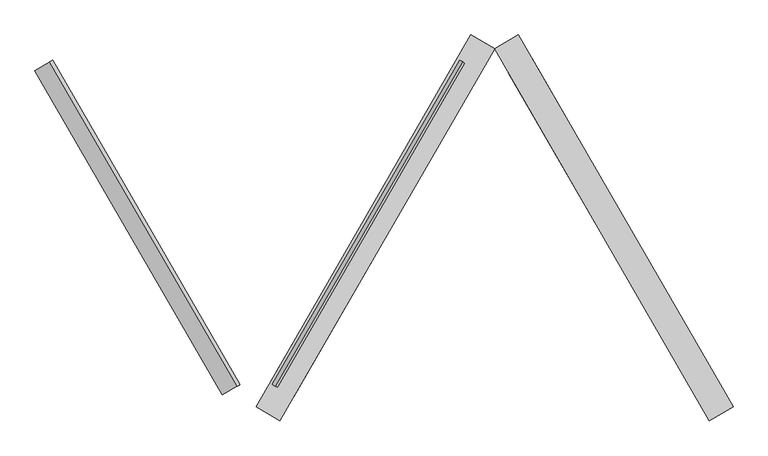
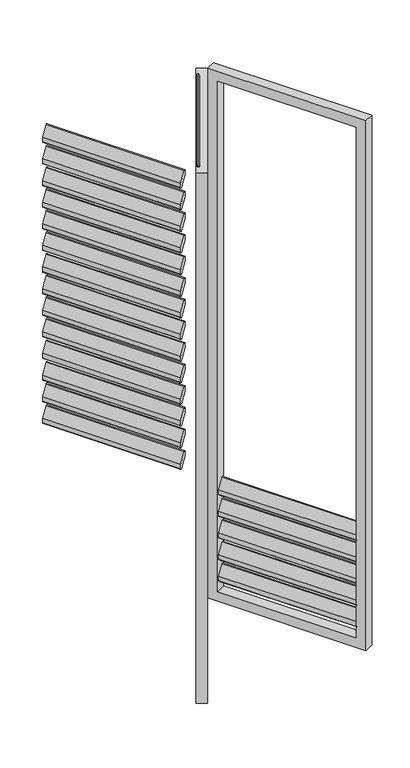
"""IFC4 building model written with IfcOpenShell, lengths in millimetres: proxy geometry, Renson_Amani_Loggia_Paro_Aluminium_Folding : Renson_Amani_Loggia_Paro_Aluminium_Folding."""

from ifc_helpers import new_model, si_unit, point, frame, frame_2d, origin, place, context, project, spatial, polyline, circle_curve, trimmed, segment, composite_curve, outline, extrude, source, transform, mapped, element, save


def generic_models_e3120b8a(model_context):
    return source(origin(), model_context, "Body", "SweptSolid", [
        extrude(outline(composite_curve([segment(polyline([(-44.0658831, 0.0), (0.8886405, 0.0), (17.0325667, -10.4839883)]), True, "CONTINUOUS"), segment(trimmed(circle_curve(frame_2d((15.3986496, -13.0)), 3.0), [point((17.0325667, -10.4839883))], [point((15.3986496, -16.0))], False, "CARTESIAN"), True, "CONTINUOUS"), segment(polyline([(15.3986496, -16.0), (-28.6672334, -16.0)]), True, "CONTINUOUS"), segment(trimmed(circle_curve(frame_2d((-28.6672334, -13.0)), 3.0), [point((-28.6672334, -16.0))], [point((-30.3011505, -15.5160117))], False, "CARTESIAN"), True, "CONTINUOUS"), segment(polyline([(-30.3011505, -15.5160117), (-45.6998002, -5.5160117)]), True, "CONTINUOUS"), segment(trimmed(circle_curve(frame_2d((-44.0658831, -3.0)), 3.0), [point((-45.6998002, -5.5160117))], [point((-44.0658831, 0.0))], False, "CARTESIAN"), True, "CONTINUOUS")], self_intersect=False)), frame((1686.1094572, 37.7168064, 507.3359298), z_axis=(-0.5000000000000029, 0.866025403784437, 0.0), x_axis=(-0.47167124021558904, -0.27231951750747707, -0.8386705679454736)), (0.0, 0.0, 1.0), 545.0),
        extrude(outline(composite_curve([segment(polyline([(-44.0658831, 0.0), (0.8886405, 0.0), (17.0325667, -10.4839883)]), True, "CONTINUOUS"), segment(trimmed(circle_curve(frame_2d((15.3986496, -13.0)), 3.0), [point((17.0325667, -10.4839883))], [point((15.3986496, -16.0))], False, "CARTESIAN"), True, "CONTINUOUS"), segment(polyline([(15.3986496, -16.0), (-28.6672334, -16.0)]), True, "CONTINUOUS"), segment(trimmed(circle_curve(frame_2d((-28.6672334, -13.0)), 3.0), [point((-28.6672334, -16.0))], [point((-30.3011505, -15.5160117))], False, "CARTESIAN"), True, "CONTINUOUS"), segment(polyline([(-30.3011505, -15.5160117), (-45.6998002, -5.5160117)]), True, "CONTINUOUS"), segment(trimmed(circle_curve(frame_2d((-44.0658831, -3.0)), 3.0), [point((-45.6998002, -5.5160117))], [point((-44.0658831, 0.0))], False, "CARTESIAN"), True, "CONTINUOUS")], self_intersect=False)), frame((1686.1094572, 37.7168064, 417.3359298), z_axis=(-0.5000000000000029, 0.866025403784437, 0.0), x_axis=(-0.47167124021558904, -0.27231951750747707, -0.8386705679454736)), (0.0, 0.0, 1.0), 545.0),
        extrude(outline(composite_curve([segment(polyline([(-44.0658831, 0.0), (0.8886405, 0.0), (17.0325667, -10.4839883)]), True, "CONTINUOUS"), segment(trimmed(circle_curve(frame_2d((15.3986496, -13.0)), 3.0), [point((17.0325667, -10.4839883))], [point((15.3986496, -16.0))], False, "CARTESIAN"), True, "CONTINUOUS"), segment(polyline([(15.3986496, -16.0), (-28.6672334, -16.0)]), True, "CONTINUOUS"), segment(trimmed(circle_curve(frame_2d((-28.6672334, -13.0)), 3.0), [point((-28.6672334, -16.0))], [point((-30.3011505, -15.5160117))], False, "CARTESIAN"), True, "CONTINUOUS"), segment(polyline([(-30.3011505, -15.5160117), (-45.6998002, -5.5160117)]), True, "CONTINUOUS"), segment(trimmed(circle_curve(frame_2d((-44.0658831, -3.0)), 3.0), [point((-45.6998002, -5.5160117))], [point((-44.0658831, 0.0))], False, "CARTESIAN"), True, "CONTINUOUS")], self_intersect=False)), frame((1686.1094572, 37.7168064, 327.3359298), z_axis=(-0.5000000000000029, 0.866025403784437, 0.0), x_axis=(-0.47167124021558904, -0.27231951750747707, -0.8386705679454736)), (0.0, 0.0, 1.0), 545.0),
        extrude(outline(composite_curve([segment(polyline([(-44.0658831, 0.0), (0.8886405, 0.0), (17.0325667, -10.4839883)]), True, "CONTINUOUS"), segment(trimmed(circle_curve(frame_2d((15.3986496, -13.0)), 3.0), [point((17.0325667, -10.4839883))], [point((15.3986496, -16.0))], False, "CARTESIAN"), True, "CONTINUOUS"), segment(polyline([(15.3986496, -16.0), (-28.6672334, -16.0)]), True, "CONTINUOUS"), segment(trimmed(circle_curve(frame_2d((-28.6672334, -13.0)), 3.0), [point((-28.6672334, -16.0))], [point((-30.3011505, -15.5160117))], False, "CARTESIAN"), True, "CONTINUOUS"), segment(polyline([(-30.3011505, -15.5160117), (-45.6998002, -5.5160117)]), True, "CONTINUOUS"), segment(trimmed(circle_curve(frame_2d((-44.0658831, -3.0)), 3.0), [point((-45.6998002, -5.5160117))], [point((-44.0658831, 0.0))], False, "CARTESIAN"), True, "CONTINUOUS")], self_intersect=False)), frame((1686.1094572, 37.7168064, 237.3359298), z_axis=(-0.5000000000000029, 0.866025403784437, 0.0), x_axis=(-0.47167124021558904, -0.27231951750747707, -0.8386705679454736)), (0.0, 0.0, 1.0), 545.0),
        extrude(outline(composite_curve([segment(polyline([(-44.0658831, 0.0), (0.8886405, 0.0), (17.0325667, -10.4839883)]), True, "CONTINUOUS"), segment(trimmed(circle_curve(frame_2d((15.3986496, -13.0)), 3.0), [point((17.0325667, -10.4839883))], [point((15.3986496, -16.0))], False, "CARTESIAN"), True, "CONTINUOUS"), segment(polyline([(15.3986496, -16.0), (-28.6672334, -16.0)]), True, "CONTINUOUS"), segment(trimmed(circle_curve(frame_2d((-28.6672334, -13.0)), 3.0), [point((-28.6672334, -16.0))], [point((-30.3011505, -15.5160117))], False, "CARTESIAN"), True, "CONTINUOUS"), segment(polyline([(-30.3011505, -15.5160117), (-45.6998002, -5.5160117)]), True, "CONTINUOUS"), segment(trimmed(circle_curve(frame_2d((-44.0658831, -3.0)), 3.0), [point((-45.6998002, -5.5160117))], [point((-44.0658831, 0.0))], False, "CARTESIAN"), True, "CONTINUOUS")], self_intersect=False)), frame((1686.1094572, 37.7168064, 147.3359298), z_axis=(-0.5000000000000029, 0.866025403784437, 0.0), x_axis=(-0.47167124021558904, -0.27231951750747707, -0.8386705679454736)), (0.0, 0.0, 1.0), 545.0),
        extrude(outline(polyline([(2165.0, -40.0), (-40.0, -40.0), (-40.0, 585.0), (2165.0, 585.0), (2165.0, -40.0)]), holes=[polyline([(2125.0, 544.9999999), (0.0, 544.9999999), (0.0, 0.0), (2125.0, 0.0), (2125.0, 544.9999999)])]), frame((1408.2820323, 506.6248612, 85.0), z_axis=(0.866025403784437, 0.500000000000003, 0.0), x_axis=(0.0, 0.0, 1.0)), (0.0, 0.0, 1.0), 40.0),
        extrude(outline(composite_curve([segment(trimmed(circle_curve(frame_2d((44.0658831, -3.0)), 3.0), [point((44.0658831, 0.0))], [point((45.6998002, -5.5160117))], False, "CARTESIAN"), True, "CONTINUOUS"), segment(polyline([(45.6998002, -5.5160117), (30.3011505, -15.5160117)]), True, "CONTINUOUS"), segment(trimmed(circle_curve(frame_2d((28.6672334, -13.0)), 3.0), [point((30.3011505, -15.5160117))], [point((28.6672334, -16.0))], False, "CARTESIAN"), True, "CONTINUOUS"), segment(polyline([(28.6672334, -16.0), (-15.3986496, -16.0)]), True, "CONTINUOUS"), segment(trimmed(circle_curve(frame_2d((-15.3986496, -13.0)), 3.0), [point((-15.3986496, -16.0))], [point((-17.0325667, -10.4839883))], False, "CARTESIAN"), True, "CONTINUOUS"), segment(polyline([(-17.0325667, -10.4839883), (-0.8886405, 0.0), (44.0658831, 0.0)]), True, "CONTINUOUS")], self_intersect=False)), frame((1090.4546074, 37.7168064, 2217.3359298), z_axis=(0.5000000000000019, 0.8660254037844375, 0.0), x_axis=(-0.4716712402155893, 0.2723195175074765, 0.8386705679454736)), (0.0, 0.0, 1.0), 545.0),
        extrude(outline(composite_curve([segment(trimmed(circle_curve(frame_2d((44.0658831, -3.0)), 3.0), [point((44.0658831, 0.0))], [point((45.6998002, -5.5160117))], False, "CARTESIAN"), True, "CONTINUOUS"), segment(polyline([(45.6998002, -5.5160117), (30.3011505, -15.5160117)]), True, "CONTINUOUS"), segment(trimmed(circle_curve(frame_2d((28.6672334, -13.0)), 3.0), [point((30.3011505, -15.5160117))], [point((28.6672334, -16.0))], False, "CARTESIAN"), True, "CONTINUOUS"), segment(polyline([(28.6672334, -16.0), (-15.3986496, -16.0)]), True, "CONTINUOUS"), segment(trimmed(circle_curve(frame_2d((-15.3986496, -13.0)), 3.0), [point((-15.3986496, -16.0))], [point((-17.0325667, -10.4839883))], False, "CARTESIAN"), True, "CONTINUOUS"), segment(polyline([(-17.0325667, -10.4839883), (-0.8886405, 0.0), (44.0658831, 0.0)]), True, "CONTINUOUS")], self_intersect=False)), frame((1090.4546074, 37.7168064, 2127.3359298), z_axis=(0.5000000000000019, 0.8660254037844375, 0.0), x_axis=(-0.4716712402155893, 0.2723195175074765, 0.8386705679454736)), (0.0, 0.0, 1.0), 545.0),
        extrude(outline(composite_curve([segment(trimmed(circle_curve(frame_2d((44.0658831, -3.0)), 3.0), [point((44.0658831, 0.0))], [point((45.6998002, -5.5160117))], False, "CARTESIAN"), True, "CONTINUOUS"), segment(polyline([(45.6998002, -5.5160117), (30.3011505, -15.5160117)]), True, "CONTINUOUS"), segment(trimmed(circle_curve(frame_2d((28.6672334, -13.0)), 3.0), [point((30.3011505, -15.5160117))], [point((28.6672334, -16.0))], False, "CARTESIAN"), True, "CONTINUOUS"), segment(polyline([(28.6672334, -16.0), (-15.3986496, -16.0)]), True, "CONTINUOUS"), segment(trimmed(circle_curve(frame_2d((-15.3986496, -13.0)), 3.0), [point((-15.3986496, -16.0))], [point((-17.0325667, -10.4839883))], False, "CARTESIAN"), True, "CONTINUOUS"), segment(polyline([(-17.0325667, -10.4839883), (-0.8886405, 0.0), (44.0658831, 0.0)]), True, "CONTINUOUS")], self_intersect=False)), frame((1090.4546074, 37.7168064, 2037.3359298), z_axis=(0.5000000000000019, 0.8660254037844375, 0.0), x_axis=(-0.4716712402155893, 0.2723195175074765, 0.8386705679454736)), (0.0, 0.0, 1.0), 545.0),
        extrude(outline(composite_curve([segment(trimmed(circle_curve(frame_2d((44.0658831, -3.0)), 3.0), [point((44.0658831, 0.0))], [point((45.6998002, -5.5160117))], False, "CARTESIAN"), True, "CONTINUOUS"), segment(polyline([(45.6998002, -5.5160117), (30.3011505, -15.5160117)]), True, "CONTINUOUS"), segment(trimmed(circle_curve(frame_2d((28.6672334, -13.0)), 3.0), [point((30.3011505, -15.5160117))], [point((28.6672334, -16.0))], False, "CARTESIAN"), True, "CONTINUOUS"), segment(polyline([(28.6672334, -16.0), (-15.3986496, -16.0)]), True, "CONTINUOUS"), segment(trimmed(circle_curve(frame_2d((-15.3986496, -13.0)), 3.0), [point((-15.3986496, -16.0))], [point((-17.0325667, -10.4839883))], False, "CARTESIAN"), True, "CONTINUOUS"), segment(polyline([(-17.0325667, -10.4839883), (-0.8886405, 0.0), (44.0658831, 0.0)]), True, "CONTINUOUS")], self_intersect=False)), frame((1090.4546074, 37.7168064, 1947.3359298), z_axis=(0.5000000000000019, 0.8660254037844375, 0.0), x_axis=(-0.4716712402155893, 0.2723195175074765, 0.8386705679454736)), (0.0, 0.0, 1.0), 545.0),
        extrude(outline(composite_curve([segment(trimmed(circle_curve(frame_2d((44.0658831, -3.0)), 3.0), [point((44.0658831, 0.0))], [point((45.6998002, -5.5160117))], False, "CARTESIAN"), True, "CONTINUOUS"), segment(polyline([(45.6998002, -5.5160117), (30.3011505, -15.5160117)]), True, "CONTINUOUS"), segment(trimmed(circle_curve(frame_2d((28.6672334, -13.0)), 3.0), [point((30.3011505, -15.5160117))], [point((28.6672334, -16.0))], False, "CARTESIAN"), True, "CONTINUOUS"), segment(polyline([(28.6672334, -16.0), (-15.3986496, -16.0)]), True, "CONTINUOUS"), segment(trimmed(circle_curve(frame_2d((-15.3986496, -13.0)), 3.0), [point((-15.3986496, -16.0))], [point((-17.0325667, -10.4839883))], False, "CARTESIAN"), True, "CONTINUOUS"), segment(polyline([(-17.0325667, -10.4839883), (-0.8886405, 0.0), (44.0658831, 0.0)]), True, "CONTINUOUS")], self_intersect=False)), frame((1090.4546074, 37.7168064, 1857.3359298), z_axis=(0.5000000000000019, 0.8660254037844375, 0.0), x_axis=(-0.4716712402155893, 0.2723195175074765, 0.8386705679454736)), (0.0, 0.0, 1.0), 545.0),
        extrude(outline(composite_curve([segment(trimmed(circle_curve(frame_2d((44.0658831, -3.0)), 3.0), [point((44.0658831, 0.0))], [point((45.6998002, -5.5160117))], False, "CARTESIAN"), True, "CONTINUOUS"), segment(polyline([(45.6998002, -5.5160117), (30.3011505, -15.5160117)]), True, "CONTINUOUS"), segment(trimmed(circle_curve(frame_2d((28.6672334, -13.0)), 3.0), [point((30.3011505, -15.5160117))], [point((28.6672334, -16.0))], False, "CARTESIAN"), True, "CONTINUOUS"), segment(polyline([(28.6672334, -16.0), (-15.3986496, -16.0)]), True, "CONTINUOUS"), segment(trimmed(circle_curve(frame_2d((-15.3986496, -13.0)), 3.0), [point((-15.3986496, -16.0))], [point((-17.0325667, -10.4839883))], False, "CARTESIAN"), True, "CONTINUOUS"), segment(polyline([(-17.0325667, -10.4839883), (-0.8886405, 0.0), (44.0658831, 0.0)]), True, "CONTINUOUS")], self_intersect=False)), frame((1090.4546074, 37.7168064, 1767.3359298), z_axis=(0.5000000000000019, 0.8660254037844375, 0.0), x_axis=(-0.4716712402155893, 0.2723195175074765, 0.8386705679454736)), (0.0, 0.0, 1.0), 545.0),
        extrude(outline(composite_curve([segment(trimmed(circle_curve(frame_2d((44.0658831, -3.0)), 3.0), [point((44.0658831, 0.0))], [point((45.6998002, -5.5160117))], False, "CARTESIAN"), True, "CONTINUOUS"), segment(polyline([(45.6998002, -5.5160117), (30.3011505, -15.5160117)]), True, "CONTINUOUS"), segment(trimmed(circle_curve(frame_2d((28.6672334, -13.0)), 3.0), [point((30.3011505, -15.5160117))], [point((28.6672334, -16.0))], False, "CARTESIAN"), True, "CONTINUOUS"), segment(polyline([(28.6672334, -16.0), (-15.3986496, -16.0)]), True, "CONTINUOUS"), segment(trimmed(circle_curve(frame_2d((-15.3986496, -13.0)), 3.0), [point((-15.3986496, -16.0))], [point((-17.0325667, -10.4839883))], False, "CARTESIAN"), True, "CONTINUOUS"), segment(polyline([(-17.0325667, -10.4839883), (-0.8886405, 0.0), (44.0658831, 0.0)]), True, "CONTINUOUS")], self_intersect=False)), frame((1090.4546074, 37.7168064, 1677.3359298), z_axis=(0.5000000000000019, 0.8660254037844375, 0.0), x_axis=(-0.4716712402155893, 0.2723195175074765, 0.8386705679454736)), (0.0, 0.0, 1.0), 545.0),
        extrude(outline(composite_curve([segment(trimmed(circle_curve(frame_2d((44.0658831, -3.0)), 3.0), [point((44.0658831, 0.0))], [point((45.6998002, -5.5160117))], False, "CARTESIAN"), True, "CONTINUOUS"), segment(polyline([(45.6998002, -5.5160117), (30.3011505, -15.5160117)]), True, "CONTINUOUS"), segment(trimmed(circle_curve(frame_2d((28.6672334, -13.0)), 3.0), [point((30.3011505, -15.5160117))], [point((28.6672334, -16.0))], False, "CARTESIAN"), True, "CONTINUOUS"), segment(polyline([(28.6672334, -16.0), (-15.3986496, -16.0)]), True, "CONTINUOUS"), segment(trimmed(circle_curve(frame_2d((-15.3986496, -13.0)), 3.0), [point((-15.3986496, -16.0))], [point((-17.0325667, -10.4839883))], False, "CARTESIAN"), True, "CONTINUOUS"), segment(polyline([(-17.0325667, -10.4839883), (-0.8886405, 0.0), (44.0658831, 0.0)]), True, "CONTINUOUS")], self_intersect=False)), frame((1090.4546074, 37.7168064, 1587.3359298), z_axis=(0.5000000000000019, 0.8660254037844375, 0.0), x_axis=(-0.4716712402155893, 0.2723195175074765, 0.8386705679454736)), (0.0, 0.0, 1.0), 545.0),
        extrude(outline(composite_curve([segment(trimmed(circle_curve(frame_2d((44.0658831, -3.0)), 3.0), [point((44.0658831, 0.0))], [point((45.6998002, -5.5160117))], False, "CARTESIAN"), True, "CONTINUOUS"), segment(polyline([(45.6998002, -5.5160117), (30.3011505, -15.5160117)]), True, "CONTINUOUS"), segment(trimmed(circle_curve(frame_2d((28.6672334, -13.0)), 3.0), [point((30.3011505, -15.5160117))], [point((28.6672334, -16.0))], False, "CARTESIAN"), True, "CONTINUOUS"), segment(polyline([(28.6672334, -16.0), (-15.3986496, -16.0)]), True, "CONTINUOUS"), segment(trimmed(circle_curve(frame_2d((-15.3986496, -13.0)), 3.0), [point((-15.3986496, -16.0))], [point((-17.0325667, -10.4839883))], False, "CARTESIAN"), True, "CONTINUOUS"), segment(polyline([(-17.0325667, -10.4839883), (-0.8886405, 0.0), (44.0658831, 0.0)]), True, "CONTINUOUS")], self_intersect=False)), frame((1090.4546074, 37.7168064, 1497.3359298), z_axis=(0.5000000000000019, 0.8660254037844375, 0.0), x_axis=(-0.4716712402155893, 0.2723195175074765, 0.8386705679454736)), (0.0, 0.0, 1.0), 545.0),
        extrude(outline(composite_curve([segment(trimmed(circle_curve(frame_2d((44.0658831, -3.0)), 3.0), [point((44.0658831, 0.0))], [point((45.6998002, -5.5160117))], False, "CARTESIAN"), True, "CONTINUOUS"), segment(polyline([(45.6998002, -5.5160117), (30.3011505, -15.5160117)]), True, "CONTINUOUS"), segment(trimmed(circle_curve(frame_2d((28.6672334, -13.0)), 3.0), [point((30.3011505, -15.5160117))], [point((28.6672334, -16.0))], False, "CARTESIAN"), True, "CONTINUOUS"), segment(polyline([(28.6672334, -16.0), (-15.3986496, -16.0)]), True, "CONTINUOUS"), segment(trimmed(circle_curve(frame_2d((-15.3986496, -13.0)), 3.0), [point((-15.3986496, -16.0))], [point((-17.0325667, -10.4839883))], False, "CARTESIAN"), True, "CONTINUOUS"), segment(polyline([(-17.0325667, -10.4839883), (-0.8886405, 0.0), (44.0658831, 0.0)]), True, "CONTINUOUS")], self_intersect=False)), frame((1090.4546074, 37.7168064, 1407.3359298), z_axis=(0.5000000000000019, 0.8660254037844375, 0.0), x_axis=(-0.4716712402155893, 0.2723195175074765, 0.8386705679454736)), (0.0, 0.0, 1.0), 545.0),
        extrude(outline(composite_curve([segment(trimmed(circle_curve(frame_2d((44.0658831, -3.0)), 3.0), [point((44.0658831, 0.0))], [point((45.6998002, -5.5160117))], False, "CARTESIAN"), True, "CONTINUOUS"), segment(polyline([(45.6998002, -5.5160117), (30.3011505, -15.5160117)]), True, "CONTINUOUS"), segment(trimmed(circle_curve(frame_2d((28.6672334, -13.0)), 3.0), [point((30.3011505, -15.5160117))], [point((28.6672334, -16.0))], False, "CARTESIAN"), True, "CONTINUOUS"), segment(polyline([(28.6672334, -16.0), (-15.3986496, -16.0)]), True, "CONTINUOUS"), segment(trimmed(circle_curve(frame_2d((-15.3986496, -13.0)), 3.0), [point((-15.3986496, -16.0))], [point((-17.0325667, -10.4839883))], False, "CARTESIAN"), True, "CONTINUOUS"), segment(polyline([(-17.0325667, -10.4839883), (-0.8886405, 0.0), (44.0658831, 0.0)]), True, "CONTINUOUS")], self_intersect=False)), frame((1090.4546074, 37.7168064, 1317.3359298), z_axis=(0.5000000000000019, 0.8660254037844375, 0.0), x_axis=(-0.4716712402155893, 0.2723195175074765, 0.8386705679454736)), (0.0, 0.0, 1.0), 545.0),
        extrude(outline(composite_curve([segment(trimmed(circle_curve(frame_2d((44.0658831, -3.0)), 3.0), [point((44.0658831, 0.0))], [point((45.6998002, -5.5160117))], False, "CARTESIAN"), True, "CONTINUOUS"), segment(polyline([(45.6998002, -5.5160117), (30.3011505, -15.5160117)]), True, "CONTINUOUS"), segment(trimmed(circle_curve(frame_2d((28.6672334, -13.0)), 3.0), [point((30.3011505, -15.5160117))], [point((28.6672334, -16.0))], False, "CARTESIAN"), True, "CONTINUOUS"), segment(polyline([(28.6672334, -16.0), (-15.3986496, -16.0)]), True, "CONTINUOUS"), segment(trimmed(circle_curve(frame_2d((-15.3986496, -13.0)), 3.0), [point((-15.3986496, -16.0))], [point((-17.0325667, -10.4839883))], False, "CARTESIAN"), True, "CONTINUOUS"), segment(polyline([(-17.0325667, -10.4839883), (-0.8886405, 0.0), (44.0658831, 0.0)]), True, "CONTINUOUS")], self_intersect=False)), frame((1090.4546074, 37.7168064, 1227.3359298), z_axis=(0.5000000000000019, 0.8660254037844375, 0.0), x_axis=(-0.4716712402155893, 0.2723195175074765, 0.8386705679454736)), (0.0, 0.0, 1.0), 545.0),
        extrude(outline(composite_curve([segment(trimmed(circle_curve(frame_2d((44.0658831, -3.0)), 3.0), [point((44.0658831, 0.0))], [point((45.6998002, -5.5160117))], False, "CARTESIAN"), True, "CONTINUOUS"), segment(polyline([(45.6998002, -5.5160117), (30.3011505, -15.5160117)]), True, "CONTINUOUS"), segment(trimmed(circle_curve(frame_2d((28.6672334, -13.0)), 3.0), [point((30.3011505, -15.5160117))], [point((28.6672334, -16.0))], False, "CARTESIAN"), True, "CONTINUOUS"), segment(polyline([(28.6672334, -16.0), (-15.3986496, -16.0)]), True, "CONTINUOUS"), segment(trimmed(circle_curve(frame_2d((-15.3986496, -13.0)), 3.0), [point((-15.3986496, -16.0))], [point((-17.0325667, -10.4839883))], False, "CARTESIAN"), True, "CONTINUOUS"), segment(polyline([(-17.0325667, -10.4839883), (-0.8886405, 0.0), (44.0658831, 0.0)]), True, "CONTINUOUS")], self_intersect=False)), frame((1090.4546074, 37.7168064, 1137.3359298), z_axis=(0.5000000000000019, 0.8660254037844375, 0.0), x_axis=(-0.4716712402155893, 0.2723195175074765, 0.8386705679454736)), (0.0, 0.0, 1.0), 545.0),
        extrude(outline(composite_curve([segment(trimmed(circle_curve(frame_2d((44.0658831, -3.0)), 3.0), [point((44.0658831, 0.0))], [point((45.6998002, -5.5160117))], False, "CARTESIAN"), True, "CONTINUOUS"), segment(polyline([(45.6998002, -5.5160117), (30.3011505, -15.5160117)]), True, "CONTINUOUS"), segment(trimmed(circle_curve(frame_2d((28.6672334, -13.0)), 3.0), [point((30.3011505, -15.5160117))], [point((28.6672334, -16.0))], False, "CARTESIAN"), True, "CONTINUOUS"), segment(polyline([(28.6672334, -16.0), (-15.3986496, -16.0)]), True, "CONTINUOUS"), segment(trimmed(circle_curve(frame_2d((-15.3986496, -13.0)), 3.0), [point((-15.3986496, -16.0))], [point((-17.0325667, -10.4839883))], False, "CARTESIAN"), True, "CONTINUOUS"), segment(polyline([(-17.0325667, -10.4839883), (-0.8886405, 0.0), (44.0658831, 0.0)]), True, "CONTINUOUS")], self_intersect=False)), frame((1090.4546074, 37.7168064, 1047.3359298), z_axis=(0.5000000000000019, 0.8660254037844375, 0.0), x_axis=(-0.4716712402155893, 0.2723195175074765, 0.8386705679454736)), (0.0, 0.0, 1.0), 545.0),
        extrude(outline(composite_curve([segment(trimmed(circle_curve(frame_2d((44.0658831, -3.0)), 3.0), [point((44.0658831, 0.0))], [point((45.6998002, -5.5160117))], False, "CARTESIAN"), True, "CONTINUOUS"), segment(polyline([(45.6998002, -5.5160117), (30.3011505, -15.5160117)]), True, "CONTINUOUS"), segment(trimmed(circle_curve(frame_2d((28.6672334, -13.0)), 3.0), [point((30.3011505, -15.5160117))], [point((28.6672334, -16.0))], False, "CARTESIAN"), True, "CONTINUOUS"), segment(polyline([(28.6672334, -16.0), (-15.3986496, -16.0)]), True, "CONTINUOUS"), segment(trimmed(circle_curve(frame_2d((-15.3986496, -13.0)), 3.0), [point((-15.3986496, -16.0))], [point((-17.0325667, -10.4839883))], False, "CARTESIAN"), True, "CONTINUOUS"), segment(polyline([(-17.0325667, -10.4839883), (-0.8886405, 0.0), (44.0658831, 0.0)]), True, "CONTINUOUS")], self_intersect=False)), frame((1090.4546074, 37.7168064, 957.3359298), z_axis=(0.5000000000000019, 0.8660254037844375, 0.0), x_axis=(-0.4716712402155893, 0.2723195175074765, 0.8386705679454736)), (0.0, 0.0, 1.0), 545.0),
        extrude(outline(composite_curve([segment(trimmed(circle_curve(frame_2d((44.0658831, -3.0)), 3.0), [point((44.0658831, 0.0))], [point((45.6998002, -5.5160117))], False, "CARTESIAN"), True, "CONTINUOUS"), segment(polyline([(45.6998002, -5.5160117), (30.3011505, -15.5160117)]), True, "CONTINUOUS"), segment(trimmed(circle_curve(frame_2d((28.6672334, -13.0)), 3.0), [point((30.3011505, -15.5160117))], [point((28.6672334, -16.0))], False, "CARTESIAN"), True, "CONTINUOUS"), segment(polyline([(28.6672334, -16.0), (-15.3986496, -16.0)]), True, "CONTINUOUS"), segment(trimmed(circle_curve(frame_2d((-15.3986496, -13.0)), 3.0), [point((-15.3986496, -16.0))], [point((-17.0325667, -10.4839883))], False, "CARTESIAN"), True, "CONTINUOUS"), segment(polyline([(-17.0325667, -10.4839883), (-0.8886405, 0.0), (44.0658831, 0.0)]), True, "CONTINUOUS")], self_intersect=False)), frame((1090.4546074, 37.7168064, 867.3359298), z_axis=(0.5000000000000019, 0.8660254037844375, 0.0), x_axis=(-0.4716712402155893, 0.2723195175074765, 0.8386705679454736)), (0.0, 0.0, 1.0), 545.0),
        extrude(outline(composite_curve([segment(trimmed(circle_curve(frame_2d((44.0658831, -3.0)), 3.0), [point((44.0658831, 0.0))], [point((45.6998002, -5.5160117))], False, "CARTESIAN"), True, "CONTINUOUS"), segment(polyline([(45.6998002, -5.5160117), (30.3011505, -15.5160117)]), True, "CONTINUOUS"), segment(trimmed(circle_curve(frame_2d((28.6672334, -13.0)), 3.0), [point((30.3011505, -15.5160117))], [point((28.6672334, -16.0))], False, "CARTESIAN"), True, "CONTINUOUS"), segment(polyline([(28.6672334, -16.0), (-15.3986496, -16.0)]), True, "CONTINUOUS"), segment(trimmed(circle_curve(frame_2d((-15.3986496, -13.0)), 3.0), [point((-15.3986496, -16.0))], [point((-17.0325667, -10.4839883))], False, "CARTESIAN"), True, "CONTINUOUS"), segment(polyline([(-17.0325667, -10.4839883), (-0.8886405, 0.0), (44.0658831, 0.0)]), True, "CONTINUOUS")], self_intersect=False)), frame((1090.4546074, 37.7168064, 777.3359298), z_axis=(0.5000000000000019, 0.8660254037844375, 0.0), x_axis=(-0.4716712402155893, 0.2723195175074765, 0.8386705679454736)), (0.0, 0.0, 1.0), 545.0),
        extrude(outline(composite_curve([segment(trimmed(circle_curve(frame_2d((44.0658831, -3.0)), 3.0), [point((44.0658831, 0.0))], [point((45.6998002, -5.5160117))], False, "CARTESIAN"), True, "CONTINUOUS"), segment(polyline([(45.6998002, -5.5160117), (30.3011505, -15.5160117)]), True, "CONTINUOUS"), segment(trimmed(circle_curve(frame_2d((28.6672334, -13.0)), 3.0), [point((30.3011505, -15.5160117))], [point((28.6672334, -16.0))], False, "CARTESIAN"), True, "CONTINUOUS"), segment(polyline([(28.6672334, -16.0), (-15.3986496, -16.0)]), True, "CONTINUOUS"), segment(trimmed(circle_curve(frame_2d((-15.3986496, -13.0)), 3.0), [point((-15.3986496, -16.0))], [point((-17.0325667, -10.4839883))], False, "CARTESIAN"), True, "CONTINUOUS"), segment(polyline([(-17.0325667, -10.4839883), (-0.8886405, 0.0), (44.0658831, 0.0)]), True, "CONTINUOUS")], self_intersect=False)), frame((1090.4546074, 37.7168064, 687.3359298), z_axis=(0.5000000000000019, 0.8660254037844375, 0.0), x_axis=(-0.4716712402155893, 0.2723195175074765, 0.8386705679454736)), (0.0, 0.0, 1.0), 545.0),
        extrude(outline(composite_curve([segment(trimmed(circle_curve(frame_2d((44.0658831, -3.0)), 3.0), [point((44.0658831, 0.0))], [point((45.6998002, -5.5160117))], False, "CARTESIAN"), True, "CONTINUOUS"), segment(polyline([(45.6998002, -5.5160117), (30.3011505, -15.5160117)]), True, "CONTINUOUS"), segment(trimmed(circle_curve(frame_2d((28.6672334, -13.0)), 3.0), [point((30.3011505, -15.5160117))], [point((28.6672334, -16.0))], False, "CARTESIAN"), True, "CONTINUOUS"), segment(polyline([(28.6672334, -16.0), (-15.3986496, -16.0)]), True, "CONTINUOUS"), segment(trimmed(circle_curve(frame_2d((-15.3986496, -13.0)), 3.0), [point((-15.3986496, -16.0))], [point((-17.0325667, -10.4839883))], False, "CARTESIAN"), True, "CONTINUOUS"), segment(polyline([(-17.0325667, -10.4839883), (-0.8886405, 0.0), (44.0658831, 0.0)]), True, "CONTINUOUS")], self_intersect=False)), frame((1090.4546074, 37.7168064, 597.3359298), z_axis=(0.5000000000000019, 0.8660254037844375, 0.0), x_axis=(-0.4716712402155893, 0.2723195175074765, 0.8386705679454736)), (0.0, 0.0, 1.0), 545.0),
        extrude(outline(composite_curve([segment(trimmed(circle_curve(frame_2d((44.0658831, -3.0)), 3.0), [point((44.0658831, 0.0))], [point((45.6998002, -5.5160117))], False, "CARTESIAN"), True, "CONTINUOUS"), segment(polyline([(45.6998002, -5.5160117), (30.3011505, -15.5160117)]), True, "CONTINUOUS"), segment(trimmed(circle_curve(frame_2d((28.6672334, -13.0)), 3.0), [point((30.3011505, -15.5160117))], [point((28.6672334, -16.0))], False, "CARTESIAN"), True, "CONTINUOUS"), segment(polyline([(28.6672334, -16.0), (-15.3986496, -16.0)]), True, "CONTINUOUS"), segment(trimmed(circle_curve(frame_2d((-15.3986496, -13.0)), 3.0), [point((-15.3986496, -16.0))], [point((-17.0325667, -10.4839883))], False, "CARTESIAN"), True, "CONTINUOUS"), segment(polyline([(-17.0325667, -10.4839883), (-0.8886405, 0.0), (44.0658831, 0.0)]), True, "CONTINUOUS")], self_intersect=False)), frame((1090.4546074, 37.7168064, 507.3359298), z_axis=(0.5000000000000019, 0.8660254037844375, 0.0), x_axis=(-0.4716712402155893, 0.2723195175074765, 0.8386705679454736)), (0.0, 0.0, 1.0), 545.0),
        extrude(outline(composite_curve([segment(trimmed(circle_curve(frame_2d((44.0658831, -3.0)), 3.0), [point((44.0658831, 0.0))], [point((45.6998002, -5.5160117))], False, "CARTESIAN"), True, "CONTINUOUS"), segment(polyline([(45.6998002, -5.5160117), (30.3011505, -15.5160117)]), True, "CONTINUOUS"), segment(trimmed(circle_curve(frame_2d((28.6672334, -13.0)), 3.0), [point((30.3011505, -15.5160117))], [point((28.6672334, -16.0))], False, "CARTESIAN"), True, "CONTINUOUS"), segment(polyline([(28.6672334, -16.0), (-15.3986496, -16.0)]), True, "CONTINUOUS"), segment(trimmed(circle_curve(frame_2d((-15.3986496, -13.0)), 3.0), [point((-15.3986496, -16.0))], [point((-17.0325667, -10.4839883))], False, "CARTESIAN"), True, "CONTINUOUS"), segment(polyline([(-17.0325667, -10.4839883), (-0.8886405, 0.0), (44.0658831, 0.0)]), True, "CONTINUOUS")], self_intersect=False)), frame((1090.4546074, 37.7168064, 417.3359298), z_axis=(0.5000000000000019, 0.8660254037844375, 0.0), x_axis=(-0.4716712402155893, 0.2723195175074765, 0.8386705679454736)), (0.0, 0.0, 1.0), 545.0),
        extrude(outline(composite_curve([segment(trimmed(circle_curve(frame_2d((44.0658831, -3.0)), 3.0), [point((44.0658831, 0.0))], [point((45.6998002, -5.5160117))], False, "CARTESIAN"), True, "CONTINUOUS"), segment(polyline([(45.6998002, -5.5160117), (30.3011505, -15.5160117)]), True, "CONTINUOUS"), segment(trimmed(circle_curve(frame_2d((28.6672334, -13.0)), 3.0), [point((30.3011505, -15.5160117))], [point((28.6672334, -16.0))], False, "CARTESIAN"), True, "CONTINUOUS"), segment(polyline([(28.6672334, -16.0), (-15.3986496, -16.0)]), True, "CONTINUOUS"), segment(trimmed(circle_curve(frame_2d((-15.3986496, -13.0)), 3.0), [point((-15.3986496, -16.0))], [point((-17.0325667, -10.4839883))], False, "CARTESIAN"), True, "CONTINUOUS"), segment(polyline([(-17.0325667, -10.4839883), (-0.8886405, 0.0), (44.0658831, 0.0)]), True, "CONTINUOUS")], self_intersect=False)), frame((1090.4546074, 37.7168064, 327.3359298), z_axis=(0.5000000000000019, 0.8660254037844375, 0.0), x_axis=(-0.4716712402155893, 0.2723195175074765, 0.8386705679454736)), (0.0, 0.0, 1.0), 545.0),
        extrude(outline(composite_curve([segment(trimmed(circle_curve(frame_2d((44.0658831, -3.0)), 3.0), [point((44.0658831, 0.0))], [point((45.6998002, -5.5160117))], False, "CARTESIAN"), True, "CONTINUOUS"), segment(polyline([(45.6998002, -5.5160117), (30.3011505, -15.5160117)]), True, "CONTINUOUS"), segment(trimmed(circle_curve(frame_2d((28.6672334, -13.0)), 3.0), [point((30.3011505, -15.5160117))], [point((28.6672334, -16.0))], False, "CARTESIAN"), True, "CONTINUOUS"), segment(polyline([(28.6672334, -16.0), (-15.3986496, -16.0)]), True, "CONTINUOUS"), segment(trimmed(circle_curve(frame_2d((-15.3986496, -13.0)), 3.0), [point((-15.3986496, -16.0))], [point((-17.0325667, -10.4839883))], False, "CARTESIAN"), True, "CONTINUOUS"), segment(polyline([(-17.0325667, -10.4839883), (-0.8886405, 0.0), (44.0658831, 0.0)]), True, "CONTINUOUS")], self_intersect=False)), frame((1090.4546074, 37.7168064, 237.3359298), z_axis=(0.5000000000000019, 0.8660254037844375, 0.0), x_axis=(-0.4716712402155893, 0.2723195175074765, 0.8386705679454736)), (0.0, 0.0, 1.0), 545.0),
        extrude(outline(composite_curve([segment(trimmed(circle_curve(frame_2d((44.0658831, -3.0)), 3.0), [point((44.0658831, 0.0))], [point((45.6998002, -5.5160117))], False, "CARTESIAN"), True, "CONTINUOUS"), segment(polyline([(45.6998002, -5.5160117), (30.3011505, -15.5160117)]), True, "CONTINUOUS"), segment(trimmed(circle_curve(frame_2d((28.6672334, -13.0)), 3.0), [point((30.3011505, -15.5160117))], [point((28.6672334, -16.0))], False, "CARTESIAN"), True, "CONTINUOUS"), segment(polyline([(28.6672334, -16.0), (-15.3986496, -16.0)]), True, "CONTINUOUS"), segment(trimmed(circle_curve(frame_2d((-15.3986496, -13.0)), 3.0), [point((-15.3986496, -16.0))], [point((-17.0325667, -10.4839883))], False, "CARTESIAN"), True, "CONTINUOUS"), segment(polyline([(-17.0325667, -10.4839883), (-0.8886405, 0.0), (44.0658831, 0.0)]), True, "CONTINUOUS")], self_intersect=False)), frame((1090.4546074, 37.7168064, 147.3359298), z_axis=(0.5000000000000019, 0.8660254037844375, 0.0), x_axis=(-0.4716712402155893, 0.2723195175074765, 0.8386705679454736)), (0.0, 0.0, 1.0), 545.0),
        extrude(outline(polyline([(2165.0, -40.0), (-40.0, -40.0), (-40.0, 585.0), (2165.0, 585.0), (2165.0, -40.0)]), holes=[polyline([(2125.0, 544.9999999), (0.0, 544.9999999), (0.0, 0.0), (2125.0, 0.0), (2125.0, 544.9999999)])]), frame((1095.7820323, 34.6410162, 85.0), z_axis=(-0.8660254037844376, 0.5000000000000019, 0.0), x_axis=(0.0, 0.0, 1.0)), (0.0, 0.0, 1.0), 40.0),
        extrude(outline(composite_curve([segment(polyline([(-44.0658831, 0.0), (0.8886405, 0.0), (17.0325667, -10.4839883)]), True, "CONTINUOUS"), segment(trimmed(circle_curve(frame_2d((15.3986496, -13.0)), 3.0), [point((17.0325667, -10.4839883))], [point((15.3986496, -16.0))], False, "CARTESIAN"), True, "CONTINUOUS"), segment(polyline([(15.3986496, -16.0), (-28.6672334, -16.0)]), True, "CONTINUOUS"), segment(trimmed(circle_curve(frame_2d((-28.6672334, -13.0)), 3.0), [point((-28.6672334, -16.0))], [point((-30.3011505, -15.5160117))], False, "CARTESIAN"), True, "CONTINUOUS"), segment(polyline([(-30.3011505, -15.5160117), (-45.6998002, -5.5160117)]), True, "CONTINUOUS"), segment(trimmed(circle_curve(frame_2d((-44.0658831, -3.0)), 3.0), [point((-45.6998002, -5.5160117))], [point((-44.0658831, 0.0))], False, "CARTESIAN"), True, "CONTINUOUS")], self_intersect=False)), frame((992.1094572, 37.7168064, 2217.3359298), z_axis=(-0.5000000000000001, 0.8660254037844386, 0.0), x_axis=(-0.47167124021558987, -0.2723195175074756, -0.8386705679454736)), (0.0, 0.0, 1.0), 545.0),
        extrude(outline(composite_curve([segment(polyline([(-44.0658831, 0.0), (0.8886405, 0.0), (17.0325667, -10.4839883)]), True, "CONTINUOUS"), segment(trimmed(circle_curve(frame_2d((15.3986496, -13.0)), 3.0), [point((17.0325667, -10.4839883))], [point((15.3986496, -16.0))], False, "CARTESIAN"), True, "CONTINUOUS"), segment(polyline([(15.3986496, -16.0), (-28.6672334, -16.0)]), True, "CONTINUOUS"), segment(trimmed(circle_curve(frame_2d((-28.6672334, -13.0)), 3.0), [point((-28.6672334, -16.0))], [point((-30.3011505, -15.5160117))], False, "CARTESIAN"), True, "CONTINUOUS"), segment(polyline([(-30.3011505, -15.5160117), (-45.6998002, -5.5160117)]), True, "CONTINUOUS"), segment(trimmed(circle_curve(frame_2d((-44.0658831, -3.0)), 3.0), [point((-45.6998002, -5.5160117))], [point((-44.0658831, 0.0))], False, "CARTESIAN"), True, "CONTINUOUS")], self_intersect=False)), frame((992.1094572, 37.7168064, 2127.3359298), z_axis=(-0.5000000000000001, 0.8660254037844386, 0.0), x_axis=(-0.47167124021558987, -0.2723195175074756, -0.8386705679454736)), (0.0, 0.0, 1.0), 545.0),
        extrude(outline(composite_curve([segment(polyline([(-44.0658831, 0.0), (0.8886405, 0.0), (17.0325667, -10.4839883)]), True, "CONTINUOUS"), segment(trimmed(circle_curve(frame_2d((15.3986496, -13.0)), 3.0), [point((17.0325667, -10.4839883))], [point((15.3986496, -16.0))], False, "CARTESIAN"), True, "CONTINUOUS"), segment(polyline([(15.3986496, -16.0), (-28.6672334, -16.0)]), True, "CONTINUOUS"), segment(trimmed(circle_curve(frame_2d((-28.6672334, -13.0)), 3.0), [point((-28.6672334, -16.0))], [point((-30.3011505, -15.5160117))], False, "CARTESIAN"), True, "CONTINUOUS"), segment(polyline([(-30.3011505, -15.5160117), (-45.6998002, -5.5160117)]), True, "CONTINUOUS"), segment(trimmed(circle_curve(frame_2d((-44.0658831, -3.0)), 3.0), [point((-45.6998002, -5.5160117))], [point((-44.0658831, 0.0))], False, "CARTESIAN"), True, "CONTINUOUS")], self_intersect=False)), frame((992.1094572, 37.7168064, 2037.3359298), z_axis=(-0.5000000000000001, 0.8660254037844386, 0.0), x_axis=(-0.47167124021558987, -0.2723195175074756, -0.8386705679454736)), (0.0, 0.0, 1.0), 545.0),
        extrude(outline(composite_curve([segment(polyline([(-44.0658831, 0.0), (0.8886405, 0.0), (17.0325667, -10.4839883)]), True, "CONTINUOUS"), segment(trimmed(circle_curve(frame_2d((15.3986496, -13.0)), 3.0), [point((17.0325667, -10.4839883))], [point((15.3986496, -16.0))], False, "CARTESIAN"), True, "CONTINUOUS"), segment(polyline([(15.3986496, -16.0), (-28.6672334, -16.0)]), True, "CONTINUOUS"), segment(trimmed(circle_curve(frame_2d((-28.6672334, -13.0)), 3.0), [point((-28.6672334, -16.0))], [point((-30.3011505, -15.5160117))], False, "CARTESIAN"), True, "CONTINUOUS"), segment(polyline([(-30.3011505, -15.5160117), (-45.6998002, -5.5160117)]), True, "CONTINUOUS"), segment(trimmed(circle_curve(frame_2d((-44.0658831, -3.0)), 3.0), [point((-45.6998002, -5.5160117))], [point((-44.0658831, 0.0))], False, "CARTESIAN"), True, "CONTINUOUS")], self_intersect=False)), frame((992.1094572, 37.7168064, 1947.3359298), z_axis=(-0.5000000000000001, 0.8660254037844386, 0.0), x_axis=(-0.47167124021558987, -0.2723195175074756, -0.8386705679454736)), (0.0, 0.0, 1.0), 545.0),
        extrude(outline(composite_curve([segment(polyline([(-44.0658831, 0.0), (0.8886405, 0.0), (17.0325667, -10.4839883)]), True, "CONTINUOUS"), segment(trimmed(circle_curve(frame_2d((15.3986496, -13.0)), 3.0), [point((17.0325667, -10.4839883))], [point((15.3986496, -16.0))], False, "CARTESIAN"), True, "CONTINUOUS"), segment(polyline([(15.3986496, -16.0), (-28.6672334, -16.0)]), True, "CONTINUOUS"), segment(trimmed(circle_curve(frame_2d((-28.6672334, -13.0)), 3.0), [point((-28.6672334, -16.0))], [point((-30.3011505, -15.5160117))], False, "CARTESIAN"), True, "CONTINUOUS"), segment(polyline([(-30.3011505, -15.5160117), (-45.6998002, -5.5160117)]), True, "CONTINUOUS"), segment(trimmed(circle_curve(frame_2d((-44.0658831, -3.0)), 3.0), [point((-45.6998002, -5.5160117))], [point((-44.0658831, 0.0))], False, "CARTESIAN"), True, "CONTINUOUS")], self_intersect=False)), frame((992.1094572, 37.7168064, 1857.3359298), z_axis=(-0.5000000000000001, 0.8660254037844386, 0.0), x_axis=(-0.47167124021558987, -0.2723195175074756, -0.8386705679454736)), (0.0, 0.0, 1.0), 545.0),
        extrude(outline(composite_curve([segment(polyline([(-44.0658831, 0.0), (0.8886405, 0.0), (17.0325667, -10.4839883)]), True, "CONTINUOUS"), segment(trimmed(circle_curve(frame_2d((15.3986496, -13.0)), 3.0), [point((17.0325667, -10.4839883))], [point((15.3986496, -16.0))], False, "CARTESIAN"), True, "CONTINUOUS"), segment(polyline([(15.3986496, -16.0), (-28.6672334, -16.0)]), True, "CONTINUOUS"), segment(trimmed(circle_curve(frame_2d((-28.6672334, -13.0)), 3.0), [point((-28.6672334, -16.0))], [point((-30.3011505, -15.5160117))], False, "CARTESIAN"), True, "CONTINUOUS"), segment(polyline([(-30.3011505, -15.5160117), (-45.6998002, -5.5160117)]), True, "CONTINUOUS"), segment(trimmed(circle_curve(frame_2d((-44.0658831, -3.0)), 3.0), [point((-45.6998002, -5.5160117))], [point((-44.0658831, 0.0))], False, "CARTESIAN"), True, "CONTINUOUS")], self_intersect=False)), frame((992.1094572, 37.7168064, 1767.3359298), z_axis=(-0.5000000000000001, 0.8660254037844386, 0.0), x_axis=(-0.47167124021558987, -0.2723195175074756, -0.8386705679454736)), (0.0, 0.0, 1.0), 545.0),
        extrude(outline(composite_curve([segment(polyline([(-44.0658831, 0.0), (0.8886405, 0.0), (17.0325667, -10.4839883)]), True, "CONTINUOUS"), segment(trimmed(circle_curve(frame_2d((15.3986496, -13.0)), 3.0), [point((17.0325667, -10.4839883))], [point((15.3986496, -16.0))], False, "CARTESIAN"), True, "CONTINUOUS"), segment(polyline([(15.3986496, -16.0), (-28.6672334, -16.0)]), True, "CONTINUOUS"), segment(trimmed(circle_curve(frame_2d((-28.6672334, -13.0)), 3.0), [point((-28.6672334, -16.0))], [point((-30.3011505, -15.5160117))], False, "CARTESIAN"), True, "CONTINUOUS"), segment(polyline([(-30.3011505, -15.5160117), (-45.6998002, -5.5160117)]), True, "CONTINUOUS"), segment(trimmed(circle_curve(frame_2d((-44.0658831, -3.0)), 3.0), [point((-45.6998002, -5.5160117))], [point((-44.0658831, 0.0))], False, "CARTESIAN"), True, "CONTINUOUS")], self_intersect=False)), frame((992.1094572, 37.7168064, 1677.3359298), z_axis=(-0.5000000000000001, 0.8660254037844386, 0.0), x_axis=(-0.47167124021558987, -0.2723195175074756, -0.8386705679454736)), (0.0, 0.0, 1.0), 545.0),
        extrude(outline(composite_curve([segment(polyline([(-44.0658831, 0.0), (0.8886405, 0.0), (17.0325667, -10.4839883)]), True, "CONTINUOUS"), segment(trimmed(circle_curve(frame_2d((15.3986496, -13.0)), 3.0), [point((17.0325667, -10.4839883))], [point((15.3986496, -16.0))], False, "CARTESIAN"), True, "CONTINUOUS"), segment(polyline([(15.3986496, -16.0), (-28.6672334, -16.0)]), True, "CONTINUOUS"), segment(trimmed(circle_curve(frame_2d((-28.6672334, -13.0)), 3.0), [point((-28.6672334, -16.0))], [point((-30.3011505, -15.5160117))], False, "CARTESIAN"), True, "CONTINUOUS"), segment(polyline([(-30.3011505, -15.5160117), (-45.6998002, -5.5160117)]), True, "CONTINUOUS"), segment(trimmed(circle_curve(frame_2d((-44.0658831, -3.0)), 3.0), [point((-45.6998002, -5.5160117))], [point((-44.0658831, 0.0))], False, "CARTESIAN"), True, "CONTINUOUS")], self_intersect=False)), frame((992.1094572, 37.7168064, 1587.3359298), z_axis=(-0.5000000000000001, 0.8660254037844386, 0.0), x_axis=(-0.47167124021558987, -0.2723195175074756, -0.8386705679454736)), (0.0, 0.0, 1.0), 545.0),
        extrude(outline(composite_curve([segment(polyline([(-44.0658831, 0.0), (0.8886405, 0.0), (17.0325667, -10.4839883)]), True, "CONTINUOUS"), segment(trimmed(circle_curve(frame_2d((15.3986496, -13.0)), 3.0), [point((17.0325667, -10.4839883))], [point((15.3986496, -16.0))], False, "CARTESIAN"), True, "CONTINUOUS"), segment(polyline([(15.3986496, -16.0), (-28.6672334, -16.0)]), True, "CONTINUOUS"), segment(trimmed(circle_curve(frame_2d((-28.6672334, -13.0)), 3.0), [point((-28.6672334, -16.0))], [point((-30.3011505, -15.5160117))], False, "CARTESIAN"), True, "CONTINUOUS"), segment(polyline([(-30.3011505, -15.5160117), (-45.6998002, -5.5160117)]), True, "CONTINUOUS"), segment(trimmed(circle_curve(frame_2d((-44.0658831, -3.0)), 3.0), [point((-45.6998002, -5.5160117))], [point((-44.0658831, 0.0))], False, "CARTESIAN"), True, "CONTINUOUS")], self_intersect=False)), frame((992.1094572, 37.7168064, 1497.3359298), z_axis=(-0.5000000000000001, 0.8660254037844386, 0.0), x_axis=(-0.47167124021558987, -0.2723195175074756, -0.8386705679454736)), (0.0, 0.0, 1.0), 545.0),
        extrude(outline(composite_curve([segment(polyline([(-44.0658831, 0.0), (0.8886405, 0.0), (17.0325667, -10.4839883)]), True, "CONTINUOUS"), segment(trimmed(circle_curve(frame_2d((15.3986496, -13.0)), 3.0), [point((17.0325667, -10.4839883))], [point((15.3986496, -16.0))], False, "CARTESIAN"), True, "CONTINUOUS"), segment(polyline([(15.3986496, -16.0), (-28.6672334, -16.0)]), True, "CONTINUOUS"), segment(trimmed(circle_curve(frame_2d((-28.6672334, -13.0)), 3.0), [point((-28.6672334, -16.0))], [point((-30.3011505, -15.5160117))], False, "CARTESIAN"), True, "CONTINUOUS"), segment(polyline([(-30.3011505, -15.5160117), (-45.6998002, -5.5160117)]), True, "CONTINUOUS"), segment(trimmed(circle_curve(frame_2d((-44.0658831, -3.0)), 3.0), [point((-45.6998002, -5.5160117))], [point((-44.0658831, 0.0))], False, "CARTESIAN"), True, "CONTINUOUS")], self_intersect=False)), frame((992.1094572, 37.7168064, 1407.3359298), z_axis=(-0.5000000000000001, 0.8660254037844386, 0.0), x_axis=(-0.47167124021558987, -0.2723195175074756, -0.8386705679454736)), (0.0, 0.0, 1.0), 545.0),
        extrude(outline(composite_curve([segment(polyline([(-44.0658831, 0.0), (0.8886405, 0.0), (17.0325667, -10.4839883)]), True, "CONTINUOUS"), segment(trimmed(circle_curve(frame_2d((15.3986496, -13.0)), 3.0), [point((17.0325667, -10.4839883))], [point((15.3986496, -16.0))], False, "CARTESIAN"), True, "CONTINUOUS"), segment(polyline([(15.3986496, -16.0), (-28.6672334, -16.0)]), True, "CONTINUOUS"), segment(trimmed(circle_curve(frame_2d((-28.6672334, -13.0)), 3.0), [point((-28.6672334, -16.0))], [point((-30.3011505, -15.5160117))], False, "CARTESIAN"), True, "CONTINUOUS"), segment(polyline([(-30.3011505, -15.5160117), (-45.6998002, -5.5160117)]), True, "CONTINUOUS"), segment(trimmed(circle_curve(frame_2d((-44.0658831, -3.0)), 3.0), [point((-45.6998002, -5.5160117))], [point((-44.0658831, 0.0))], False, "CARTESIAN"), True, "CONTINUOUS")], self_intersect=False)), frame((992.1094572, 37.7168064, 1317.3359298), z_axis=(-0.5000000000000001, 0.8660254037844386, 0.0), x_axis=(-0.47167124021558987, -0.2723195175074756, -0.8386705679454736)), (0.0, 0.0, 1.0), 545.0),
        extrude(outline(composite_curve([segment(polyline([(-44.0658831, 0.0), (0.8886405, 0.0), (17.0325667, -10.4839883)]), True, "CONTINUOUS"), segment(trimmed(circle_curve(frame_2d((15.3986496, -13.0)), 3.0), [point((17.0325667, -10.4839883))], [point((15.3986496, -16.0))], False, "CARTESIAN"), True, "CONTINUOUS"), segment(polyline([(15.3986496, -16.0), (-28.6672334, -16.0)]), True, "CONTINUOUS"), segment(trimmed(circle_curve(frame_2d((-28.6672334, -13.0)), 3.0), [point((-28.6672334, -16.0))], [point((-30.3011505, -15.5160117))], False, "CARTESIAN"), True, "CONTINUOUS"), segment(polyline([(-30.3011505, -15.5160117), (-45.6998002, -5.5160117)]), True, "CONTINUOUS"), segment(trimmed(circle_curve(frame_2d((-44.0658831, -3.0)), 3.0), [point((-45.6998002, -5.5160117))], [point((-44.0658831, 0.0))], False, "CARTESIAN"), True, "CONTINUOUS")], self_intersect=False)), frame((992.1094572, 37.7168064, 1227.3359298), z_axis=(-0.5000000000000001, 0.8660254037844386, 0.0), x_axis=(-0.47167124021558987, -0.2723195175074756, -0.8386705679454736)), (0.0, 0.0, 1.0), 545.0),
        extrude(outline(composite_curve([segment(polyline([(-44.0658831, 0.0), (0.8886405, 0.0), (17.0325667, -10.4839883)]), True, "CONTINUOUS"), segment(trimmed(circle_curve(frame_2d((15.3986496, -13.0)), 3.0), [point((17.0325667, -10.4839883))], [point((15.3986496, -16.0))], False, "CARTESIAN"), True, "CONTINUOUS"), segment(polyline([(15.3986496, -16.0), (-28.6672334, -16.0)]), True, "CONTINUOUS"), segment(trimmed(circle_curve(frame_2d((-28.6672334, -13.0)), 3.0), [point((-28.6672334, -16.0))], [point((-30.3011505, -15.5160117))], False, "CARTESIAN"), True, "CONTINUOUS"), segment(polyline([(-30.3011505, -15.5160117), (-45.6998002, -5.5160117)]), True, "CONTINUOUS"), segment(trimmed(circle_curve(frame_2d((-44.0658831, -3.0)), 3.0), [point((-45.6998002, -5.5160117))], [point((-44.0658831, 0.0))], False, "CARTESIAN"), True, "CONTINUOUS")], self_intersect=False)), frame((992.1094572, 37.7168064, 1137.3359298), z_axis=(-0.5000000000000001, 0.8660254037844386, 0.0), x_axis=(-0.47167124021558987, -0.2723195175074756, -0.8386705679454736)), (0.0, 0.0, 1.0), 545.0),
        extrude(outline(composite_curve([segment(polyline([(-44.0658831, 0.0), (0.8886405, 0.0), (17.0325667, -10.4839883)]), True, "CONTINUOUS"), segment(trimmed(circle_curve(frame_2d((15.3986496, -13.0)), 3.0), [point((17.0325667, -10.4839883))], [point((15.3986496, -16.0))], False, "CARTESIAN"), True, "CONTINUOUS"), segment(polyline([(15.3986496, -16.0), (-28.6672334, -16.0)]), True, "CONTINUOUS"), segment(trimmed(circle_curve(frame_2d((-28.6672334, -13.0)), 3.0), [point((-28.6672334, -16.0))], [point((-30.3011505, -15.5160117))], False, "CARTESIAN"), True, "CONTINUOUS"), segment(polyline([(-30.3011505, -15.5160117), (-45.6998002, -5.5160117)]), True, "CONTINUOUS"), segment(trimmed(circle_curve(frame_2d((-44.0658831, -3.0)), 3.0), [point((-45.6998002, -5.5160117))], [point((-44.0658831, 0.0))], False, "CARTESIAN"), True, "CONTINUOUS")], self_intersect=False)), frame((992.1094572, 37.7168064, 1047.3359298), z_axis=(-0.5000000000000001, 0.8660254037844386, 0.0), x_axis=(-0.47167124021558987, -0.2723195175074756, -0.8386705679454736)), (0.0, 0.0, 1.0), 545.0),
    ])


if __name__ == "__main__":
    model = new_model("IFC4")
    model_context = context("Model", 3, world=origin())
    ifc_project = project(units=[si_unit("LENGTHUNIT", "METRE", prefix="MILLI")], contexts=[model_context])
    site = spatial("IfcSite", under=ifc_project)
    building = spatial("IfcBuilding", under=site)
    placement = place(None, origin())
    generic_models_shape = generic_models_e3120b8a(model_context)
    element("IfcBuildingElementProxy", 1, Name="Renson_Amani_Loggia_Paro_Aluminium_Folding : Renson_Amani_Loggia_Paro_Aluminium_Folding", ObjectType="Renson_Amani_Loggia_Paro_Aluminium_Folding : Renson_Amani_Loggia_Paro_Aluminium_Folding", at=placement, inside=building, context=model_context, shape_type="MappedRepresentation", body=[
        mapped(generic_models_shape, transform((0.0, 0.0, 0.0), x_axis=(1.0, 0.0, 0.0), y_axis=(0.0, 1.0, 0.0), z_axis=(0.0, 0.0, 1.0))),
    ])
    save(model, "model.ifc")
